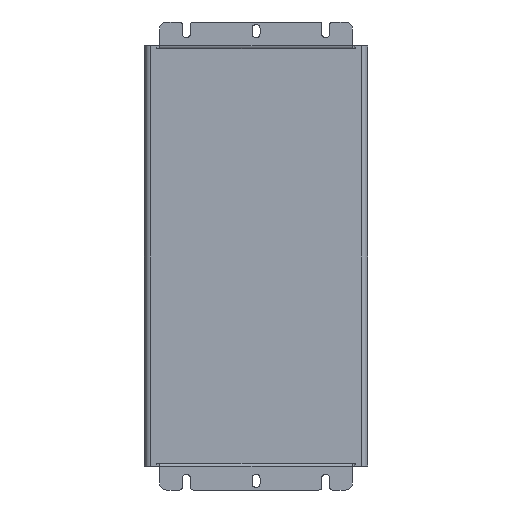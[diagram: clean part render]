
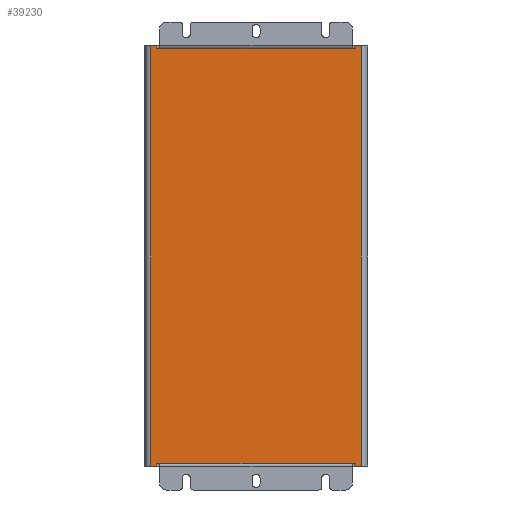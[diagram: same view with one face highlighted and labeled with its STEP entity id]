
A CAD part, front view. The second image highlights one B-rep face of the part: STEP entity #39230.
In plain terms, the highlighted planar face has unit normal (0, -1, 0).
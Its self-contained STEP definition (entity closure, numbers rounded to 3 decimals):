
#9860=CARTESIAN_POINT('',(1824.218,-2443.289,313.));
#9870=VERTEX_POINT('',#9860);
#9900=CARTESIAN_POINT('',(1824.218,-2443.289,313.));
#9910=DIRECTION('',(-1.,0.,0.));
#9920=VECTOR('',#9910,1.);
#9930=LINE('',#9900,#9920);
#9940=CARTESIAN_POINT('',(1820.842,-2443.289,313.));
#9950=VERTEX_POINT('',#9940);
#9960=EDGE_CURVE('',#9870,#9950,#9930,.T.);
#10520=CARTESIAN_POINT('',(1709.842,-2443.289,313.));
#10530=VERTEX_POINT('',#10520);
#10560=CARTESIAN_POINT('',(1709.842,-2443.289,313.));
#10570=DIRECTION('',(-1.,0.,0.));
#10580=VECTOR('',#10570,1.);
#10590=LINE('',#10560,#10580);
#10600=CARTESIAN_POINT('',(1706.467,-2443.289,313.));
#10610=VERTEX_POINT('',#10600);
#10620=EDGE_CURVE('',#10530,#10610,#10590,.T.);
#29440=CARTESIAN_POINT('',(1706.467,-2443.289,77.8));
#29450=VERTEX_POINT('',#29440);
#29480=CARTESIAN_POINT('',(1706.467,-2443.289,77.8));
#29490=DIRECTION('',(1.,0.,0.));
#29500=VECTOR('',#29490,1.);
#29510=LINE('',#29480,#29500);
#29520=CARTESIAN_POINT('',(1709.842,-2443.289,77.8));
#29530=VERTEX_POINT('',#29520);
#29540=EDGE_CURVE('',#29450,#29530,#29510,.T.);
#30100=CARTESIAN_POINT('',(1820.842,-2443.289,77.8));
#30110=VERTEX_POINT('',#30100);
#30140=CARTESIAN_POINT('',(1820.842,-2443.289,77.8));
#30150=DIRECTION('',(1.,0.,0.));
#30160=VECTOR('',#30150,1.);
#30170=LINE('',#30140,#30160);
#30180=CARTESIAN_POINT('',(1824.218,-2443.289,77.8));
#30190=VERTEX_POINT('',#30180);
#30200=EDGE_CURVE('',#30110,#30190,#30170,.T.);
#38560=CARTESIAN_POINT('',(1703.342,-2443.289,79.4));
#38570=DIRECTION('',(0.,-1.,0.));
#38580=DIRECTION('',(1.,0.,0.));
#38590=AXIS2_PLACEMENT_3D('',#38560,#38570,#38580);
#38600=PLANE('',#38590);
#38610=ORIENTED_EDGE('',*,*,#10620,.T.);
#38620=CARTESIAN_POINT('',(1709.842,-2443.289,313.));
#38630=DIRECTION('',(0.,0.,-1.));
#38640=VECTOR('',#38630,1.);
#38650=LINE('',#38620,#38640);
#38660=CARTESIAN_POINT('',(1709.842,-2443.289,
311.4));
#38670=VERTEX_POINT('',#38660);
#38680=EDGE_CURVE('',#10530,#38670,#38650,.T.);
#38690=ORIENTED_EDGE('',*,*,#38680,.F.);
#38700=CARTESIAN_POINT('',(1709.842,-2443.289,
311.4));
#38710=DIRECTION('',(1.,0.,0.));
#38720=VECTOR('',#38710,1.);
#38730=LINE('',#38700,#38720);
#38740=CARTESIAN_POINT('',(1820.842,-2443.289,
311.4));
#38750=VERTEX_POINT('',#38740);
#38760=EDGE_CURVE('',#38670,#38750,#38730,.T.);
#38770=ORIENTED_EDGE('',*,*,#38760,.F.);
#38780=CARTESIAN_POINT('',(1820.842,-2443.289,
311.4));
#38790=DIRECTION('',(0.,0.,1.));
#38800=VECTOR('',#38790,1.);
#38810=LINE('',#38780,#38800);
#38820=EDGE_CURVE('',#38750,#9950,#38810,.T.);
#38830=ORIENTED_EDGE('',*,*,#38820,.F.);
#38840=ORIENTED_EDGE('',*,*,#9960,.T.);
#38850=CARTESIAN_POINT('',(1824.218,-2443.289,77.8));
#38860=DIRECTION('',(0.,0.,1.));
#38870=VECTOR('',#38860,1.);
#38880=LINE('',#38850,#38870);
#38890=EDGE_CURVE('',#30190,#9870,#38880,.T.);
#38900=ORIENTED_EDGE('',*,*,#38890,.T.);
#38910=ORIENTED_EDGE('',*,*,#30200,.T.);
#38920=CARTESIAN_POINT('',(1820.842,-2443.289,77.8));
#38930=DIRECTION('',(0.,0.,1.));
#38940=VECTOR('',#38930,1.);
#38950=LINE('',#38920,#38940);
#38960=CARTESIAN_POINT('',(1820.842,-2443.289,
79.4));
#38970=VERTEX_POINT('',#38960);
#38980=EDGE_CURVE('',#30110,#38970,#38950,.T.);
#38990=ORIENTED_EDGE('',*,*,#38980,.F.);
#39000=CARTESIAN_POINT('',(1709.842,-2443.289,
79.4));
#39010=DIRECTION('',(1.,0.,0.));
#39020=VECTOR('',#39010,1.);
#39030=LINE('',#39000,#39020);
#39040=CARTESIAN_POINT('',(1709.842,-2443.289,
79.4));
#39050=VERTEX_POINT('',#39040);
#39060=EDGE_CURVE('',#39050,#38970,#39030,.T.);
#39070=ORIENTED_EDGE('',*,*,#39060,.T.);
#39080=CARTESIAN_POINT('',(1709.842,-2443.289,
79.4));
#39090=DIRECTION('',(0.,0.,-1.));
#39100=VECTOR('',#39090,1.);
#39110=LINE('',#39080,#39100);
#39120=EDGE_CURVE('',#39050,#29530,#39110,.T.);
#39130=ORIENTED_EDGE('',*,*,#39120,.F.);
#39140=ORIENTED_EDGE('',*,*,#29540,.T.);
#39150=CARTESIAN_POINT('',(1706.467,-2443.289,313.));
#39160=DIRECTION('',(0.,0.,-1.));
#39170=VECTOR('',#39160,1.);
#39180=LINE('',#39150,#39170);
#39190=EDGE_CURVE('',#10610,#29450,#39180,.T.);
#39200=ORIENTED_EDGE('',*,*,#39190,.T.);
#39210=EDGE_LOOP('',(#39200,#39140,#39130,#39070,#38990,#38910,#38900,
#38840,#38830,#38770,#38690,#38610));
#39220=FACE_OUTER_BOUND('',#39210,.T.);
#39230=ADVANCED_FACE('',(#39220),#38600,.T.);
